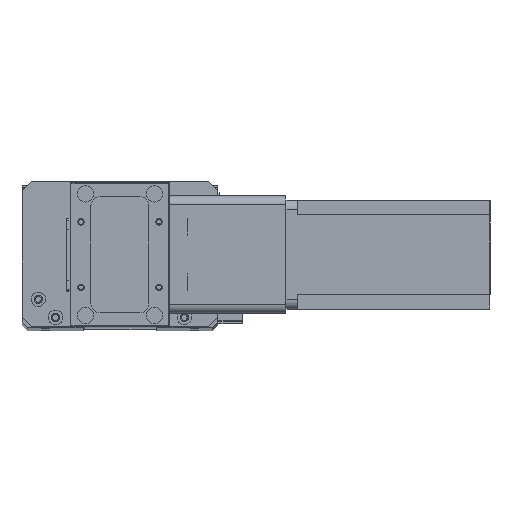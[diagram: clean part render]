
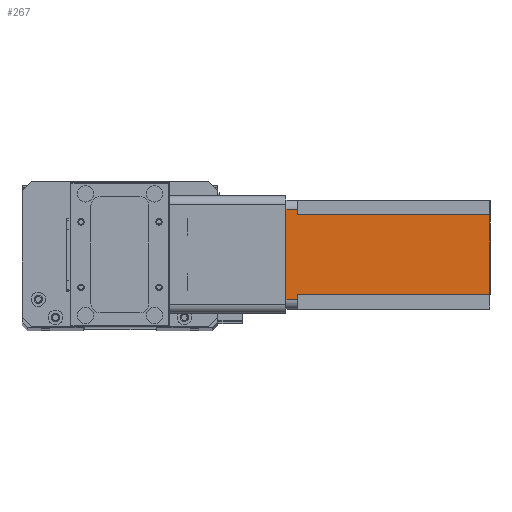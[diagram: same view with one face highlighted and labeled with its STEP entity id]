
A CAD part, top view. The second image highlights one B-rep face of the part: STEP entity #267.
In plain terms, the highlighted planar face has unit normal (0, 0, 1) as drawn and (0, 1, 0) by its records, which use the part's own axes.
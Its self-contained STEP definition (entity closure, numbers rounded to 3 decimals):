
#267 = ADVANCED_FACE ( 'NONE', ( #19371 ), #23534, .T. ) ;
#1114 = CARTESIAN_POINT ( 'NONE',  ( 5., 60., -6.5 ) ) ;
#1789 = DIRECTION ( 'NONE',  ( -1., 0., 0. ) ) ;
#2049 = CARTESIAN_POINT ( 'NONE',  ( 8., 60., -112.5 ) ) ;
#2414 = LINE ( 'NONE', #22621, #7344 ) ;
#2649 = VECTOR ( 'NONE', #23413, 1000. ) ;
#2808 = VERTEX_POINT ( 'NONE', #13487 ) ;
#3335 = CARTESIAN_POINT ( 'NONE',  ( 52., 60., -6.5 ) ) ;
#3629 = VECTOR ( 'NONE', #11268, 1000. ) ;
#3859 = VERTEX_POINT ( 'NONE', #19456 ) ;
#4193 = ORIENTED_EDGE ( 'NONE', *, *, #17570, .T. ) ;
#4402 = VERTEX_POINT ( 'NONE', #26823 ) ;
#4443 = LINE ( 'NONE', #10880, #26039 ) ;
#4881 = EDGE_CURVE ( 'NONE', #6193, #4402, #7823, .T. ) ;
#5957 = CARTESIAN_POINT ( 'NONE',  ( 55., 60., -112.5 ) ) ;
#6193 = VERTEX_POINT ( 'NONE', #26875 ) ;
#6413 = EDGE_CURVE ( 'NONE', #23604, #2808, #4443, .T. ) ;
#6775 = DIRECTION ( 'NONE',  ( 1., 0., 0. ) ) ;
#7103 = VERTEX_POINT ( 'NONE', #7643 ) ;
#7344 = VECTOR ( 'NONE', #1789, 1000. ) ;
#7643 = CARTESIAN_POINT ( 'NONE',  ( 8., 60., -6.5 ) ) ;
#7823 = LINE ( 'NONE', #19959, #18276 ) ;
#8016 = LINE ( 'NONE', #5957, #24021 ) ;
#8919 = VECTOR ( 'NONE', #12575, 1000. ) ;
#10777 = CARTESIAN_POINT ( 'NONE',  ( 5., 60., -112.5 ) ) ;
#10880 = CARTESIAN_POINT ( 'NONE',  ( 52., 60., -6.5 ) ) ;
#11268 = DIRECTION ( 'NONE',  ( -1., 0., 0. ) ) ;
#11792 = EDGE_CURVE ( 'NONE', #7103, #17381, #2414, .T. ) ;
#11856 = ORIENTED_EDGE ( 'NONE', *, *, #6413, .F. ) ;
#12298 = CARTESIAN_POINT ( 'NONE',  ( 0., 60., -112.5 ) ) ;
#12575 = DIRECTION ( 'NONE',  ( 0., 0., -1. ) ) ;
#13487 = CARTESIAN_POINT ( 'NONE',  ( 55., 60., -6.5 ) ) ;
#13535 = EDGE_CURVE ( 'NONE', #19966, #3859, #14111, .T. ) ;
#14019 = ORIENTED_EDGE ( 'NONE', *, *, #11792, .T. ) ;
#14111 = LINE ( 'NONE', #19675, #3629 ) ;
#14452 = LINE ( 'NONE', #19141, #2649 ) ;
#14504 = LINE ( 'NONE', #2049, #8919 ) ;
#14591 = VECTOR ( 'NONE', #23180, 1000. ) ;
#14753 = EDGE_LOOP ( 'NONE', ( #16181, #4193, #11856, #23481, #20705, #25077, #14019, #25741 ) ) ;
#16070 = DIRECTION ( 'NONE',  ( 0., 0., 1. ) ) ;
#16181 = ORIENTED_EDGE ( 'NONE', *, *, #13535, .F. ) ;
#16602 = AXIS2_PLACEMENT_3D ( 'NONE', #12298, #22261, #16070 ) ;
#17381 = VERTEX_POINT ( 'NONE', #1114 ) ;
#17570 = EDGE_CURVE ( 'NONE', #19966, #2808, #8016, .T. ) ;
#17938 = DIRECTION ( 'NONE',  ( -1., 0., 0. ) ) ;
#18276 = VECTOR ( 'NONE', #17938, 1000. ) ;
#18482 = DIRECTION ( 'NONE',  ( 0., 0., -1. ) ) ;
#19141 = CARTESIAN_POINT ( 'NONE',  ( 52., 60., -112.5 ) ) ;
#19371 = FACE_OUTER_BOUND ( 'NONE', #14753, .T. ) ;
#19456 = CARTESIAN_POINT ( 'NONE',  ( 5., 60., 0. ) ) ;
#19675 = CARTESIAN_POINT ( 'NONE',  ( 0., 60., 0. ) ) ;
#19959 = CARTESIAN_POINT ( 'NONE',  ( 0., 60., -112.5 ) ) ;
#19966 = VERTEX_POINT ( 'NONE', #20721 ) ;
#20630 = EDGE_CURVE ( 'NONE', #6193, #23604, #14452, .T. ) ;
#20705 = ORIENTED_EDGE ( 'NONE', *, *, #4881, .T. ) ;
#20721 = CARTESIAN_POINT ( 'NONE',  ( 55., 60., 0. ) ) ;
#21763 = EDGE_CURVE ( 'NONE', #17381, #3859, #25687, .T. ) ;
#22261 = DIRECTION ( 'NONE',  ( 0., 1., 0. ) ) ;
#22621 = CARTESIAN_POINT ( 'NONE',  ( 8., 60., -6.5 ) ) ;
#23180 = DIRECTION ( 'NONE',  ( 0., 0., 1. ) ) ;
#23272 = EDGE_CURVE ( 'NONE', #7103, #4402, #14504, .T. ) ;
#23413 = DIRECTION ( 'NONE',  ( 0., 0., 1. ) ) ;
#23481 = ORIENTED_EDGE ( 'NONE', *, *, #20630, .F. ) ;
#23534 = PLANE ( 'NONE',  #16602 ) ;
#23604 = VERTEX_POINT ( 'NONE', #3335 ) ;
#24021 = VECTOR ( 'NONE', #18482, 1000. ) ;
#25077 = ORIENTED_EDGE ( 'NONE', *, *, #23272, .F. ) ;
#25687 = LINE ( 'NONE', #10777, #14591 ) ;
#25741 = ORIENTED_EDGE ( 'NONE', *, *, #21763, .T. ) ;
#26039 = VECTOR ( 'NONE', #6775, 1000. ) ;
#26823 = CARTESIAN_POINT ( 'NONE',  ( 8., 60., -112.5 ) ) ;
#26875 = CARTESIAN_POINT ( 'NONE',  ( 52., 60., -112.5 ) ) ;
